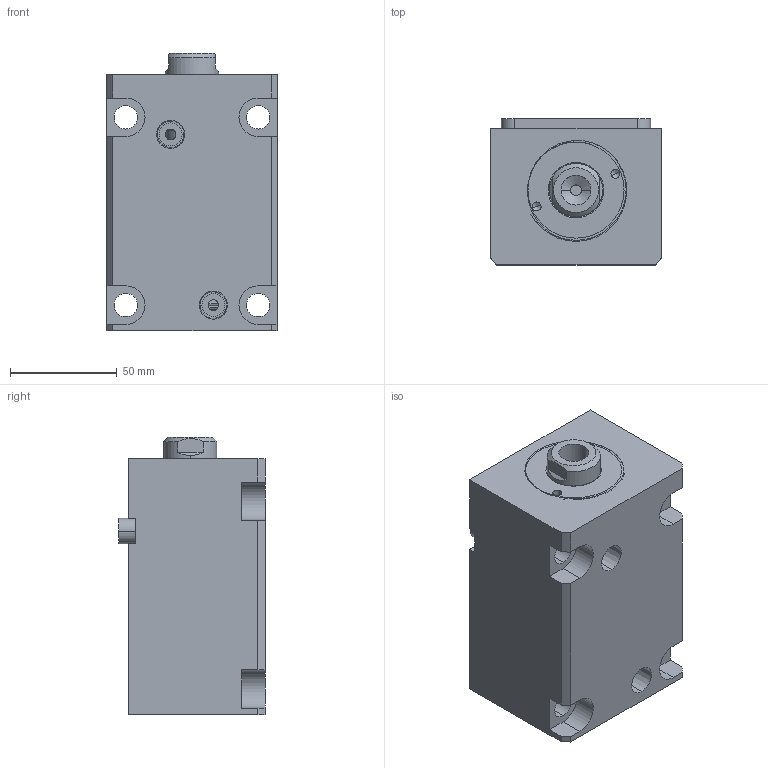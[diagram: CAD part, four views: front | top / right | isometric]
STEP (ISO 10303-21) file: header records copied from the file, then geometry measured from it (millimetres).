
FILE_DESCRIPTION (( 'STEP AP214' ), '1' );
FILE_NAME ('chtb-la40x65n_asm.STEP', '2018-05-31T01:54:11', ( 'Windows' ), ( 'Microsoft' ), 'SwSTEP 2.0', 'SolidWorks 2015', '' );
FILE_SCHEMA (( 'AUTOMOTIVE_DESIGN' ));
Length unit declared in the file: millimetre
Products named in the file (5): CHTB-LA40PJ; CHTB-SD40X65NHSG; CHTB-SD40QG; CHTB-LA40X65NBT; chtb-la40x65n_asm
Assembly tree (4 placements, depth 2):
  chtb-la40x65n_asm
    CHTB-LA40X65NBT
    CHTB-SD40QG
    CHTB-SD40X65NHSG
    CHTB-LA40PJ
Bounding box: 80 x 68.5 x 130 mm (x, y, z)
Volume: 525687.1 mm3; surface area: 97118.1 mm2
Topology: 4 solids, 4 shells, 160 faces, 430 edges, 286 vertices
Faces by surface type: cylinder 73, plane 48, bspline 14, cone 13, torus 12
Entity records: 10258 total; most frequent: CARTESIAN_POINT 6106, ORIENTED_EDGE 848, DIRECTION 787, EDGE_CURVE 424, AXIS2_PLACEMENT_3D 314, VERTEX_POINT 286, EDGE_LOOP 188, CIRCLE 161
